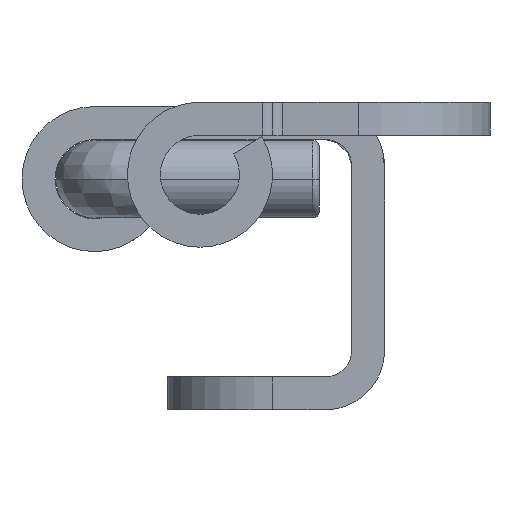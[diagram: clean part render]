
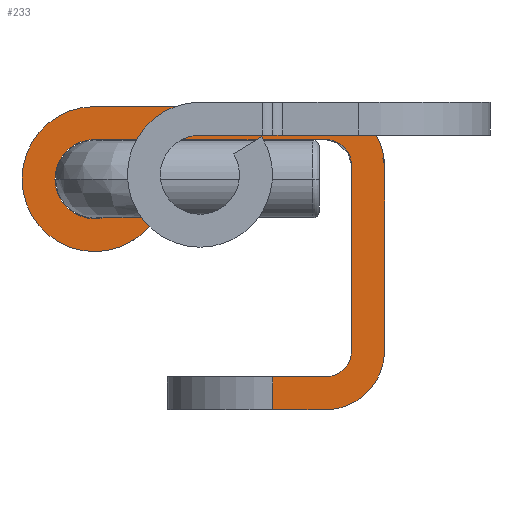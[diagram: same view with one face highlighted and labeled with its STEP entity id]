
A CAD part, front view. The second image highlights one B-rep face of the part: STEP entity #233.
In plain terms, the highlighted planar face has unit normal (0, -1, 0).
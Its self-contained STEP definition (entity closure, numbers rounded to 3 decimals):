
#68=B_SPLINE_CURVE_WITH_KNOTS('',1,(#3798,#3799),.UNSPECIFIED.,.F.,.F.,
(2,2),(0.,14.),.UNSPECIFIED.);
#71=B_SPLINE_CURVE_WITH_KNOTS('',1,(#3812,#3813),.UNSPECIFIED.,.F.,.F.,
(2,2),(0.,4.),.UNSPECIFIED.);
#79=B_SPLINE_CURVE_WITH_KNOTS('',1,(#3828,#3829),.UNSPECIFIED.,.F.,.F.,
(2,2),(0.,4.),.UNSPECIFIED.);
#82=B_SPLINE_CURVE_WITH_KNOTS('',1,(#3842,#3843),.UNSPECIFIED.,.F.,.F.,
(2,2),(0.,14.),.UNSPECIFIED.);
#99=B_SPLINE_CURVE_WITH_KNOTS('',1,(#3894,#3895),.UNSPECIFIED.,.F.,.F.,
(2,2),(0.,17.5),.UNSPECIFIED.);
#100=B_SPLINE_CURVE_WITH_KNOTS('',1,(#3896,#3897),.UNSPECIFIED.,.F.,.F.,
(2,2),(0.,17.5),.UNSPECIFIED.);
#110=B_SPLINE_CURVE_WITH_KNOTS('',1,(#3931,#3932),.UNSPECIFIED.,.F.,.F.,
(2,2),(-2.5,0.),.UNSPECIFIED.);
#126=B_SPLINE_CURVE_WITH_KNOTS('',1,(#4037,#4038),.UNSPECIFIED.,.F.,.F.,
(2,2),(0.,2.5),.UNSPECIFIED.);
#233=ADVANCED_FACE('',(#339),#1821,.T.);
#339=FACE_OUTER_BOUND('',#459,.T.);
#459=EDGE_LOOP('',(#919,#920,#921,#922,#923,#924,#925,#926,#927,#928,#929,
#930,#931,#932,#933,#934));
#919=ORIENTED_EDGE('',*,*,#1302,.F.);
#920=ORIENTED_EDGE('',*,*,#1227,.F.);
#921=ORIENTED_EDGE('',*,*,#1230,.F.);
#922=ORIENTED_EDGE('',*,*,#1233,.F.);
#923=ORIENTED_EDGE('',*,*,#1236,.F.);
#924=ORIENTED_EDGE('',*,*,#1256,.T.);
#925=ORIENTED_EDGE('',*,*,#1293,.T.);
#926=ORIENTED_EDGE('',*,*,#1294,.T.);
#927=ORIENTED_EDGE('',*,*,#1272,.T.);
#928=ORIENTED_EDGE('',*,*,#1289,.T.);
#929=ORIENTED_EDGE('',*,*,#1287,.T.);
#930=ORIENTED_EDGE('',*,*,#1257,.T.);
#931=ORIENTED_EDGE('',*,*,#1258,.T.);
#932=ORIENTED_EDGE('',*,*,#1213,.F.);
#933=ORIENTED_EDGE('',*,*,#1216,.T.);
#934=ORIENTED_EDGE('',*,*,#1219,.F.);
#1213=EDGE_CURVE('',#1706,#1707,#68,.T.);
#1216=EDGE_CURVE('',#1706,#1710,#1392,.T.);
#1219=EDGE_CURVE('',#1712,#1710,#71,.T.);
#1227=EDGE_CURVE('',#1724,#1725,#79,.T.);
#1230=EDGE_CURVE('',#1731,#1724,#1395,.T.);
#1233=EDGE_CURVE('',#1736,#1731,#82,.T.);
#1236=EDGE_CURVE('',#1740,#1736,#1396,.T.);
#1256=EDGE_CURVE('',#1740,#1756,#99,.T.);
#1257=EDGE_CURVE('',#1761,#1762,#100,.T.);
#1258=EDGE_CURVE('',#1762,#1707,#1402,.T.);
#1272=EDGE_CURVE('',#1758,#1759,#110,.T.);
#1287=EDGE_CURVE('',#1760,#1761,#1409,.T.);
#1289=EDGE_CURVE('',#1759,#1760,#1410,.T.);
#1293=EDGE_CURVE('',#1756,#1757,#1413,.T.);
#1294=EDGE_CURVE('',#1757,#1758,#1414,.T.);
#1302=EDGE_CURVE('',#1725,#1712,#126,.T.);
#1392=TRIMMED_CURVE($,#1504,(#3805),(#3806),.T.,.CARTESIAN.);
#1395=TRIMMED_CURVE($,#1507,(#3836),(#3837),.T.,.CARTESIAN.);
#1396=TRIMMED_CURVE($,#1508,(#3849),(#3850),.T.,.CARTESIAN.);
#1402=TRIMMED_CURVE($,#1514,(#3899),(#3900),.T.,.CARTESIAN.);
#1409=TRIMMED_CURVE($,#1521,(#3996),(#3997),.T.,.CARTESIAN.);
#1410=TRIMMED_CURVE($,#1522,(#4001),(#4002),.T.,.CARTESIAN.);
#1413=TRIMMED_CURVE($,#1525,(#4012),(#4013),.T.,.CARTESIAN.);
#1414=TRIMMED_CURVE($,#1526,(#4015),(#4016),.T.,.CARTESIAN.);
#1504=CIRCLE('',#2132,2.);
#1507=CIRCLE('',#2135,4.5);
#1508=CIRCLE('',#2136,4.5);
#1514=CIRCLE('',#2142,2.);
#1521=CIRCLE('',#2149,3.);
#1522=CIRCLE('',#2150,3.);
#1525=CIRCLE('',#2153,5.5);
#1526=CIRCLE('',#2154,5.5);
#1706=VERTEX_POINT('',#3726);
#1707=VERTEX_POINT('',#3727);
#1710=VERTEX_POINT('',#3730);
#1712=VERTEX_POINT('',#3732);
#1724=VERTEX_POINT('',#3744);
#1725=VERTEX_POINT('',#3745);
#1731=VERTEX_POINT('',#3751);
#1736=VERTEX_POINT('',#3756);
#1740=VERTEX_POINT('',#3760);
#1756=VERTEX_POINT('',#3776);
#1757=VERTEX_POINT('',#3777);
#1758=VERTEX_POINT('',#3778);
#1759=VERTEX_POINT('',#3779);
#1760=VERTEX_POINT('',#3780);
#1761=VERTEX_POINT('',#3781);
#1762=VERTEX_POINT('',#3782);
#1821=PLANE('',#2115);
#2115=AXIS2_PLACEMENT_3D('',#3506,#2396,$);
#2132=AXIS2_PLACEMENT_3D($,#3804,#2413,#2414);
#2135=AXIS2_PLACEMENT_3D($,#3835,#2419,#2420);
#2136=AXIS2_PLACEMENT_3D($,#3848,#2421,#2422);
#2142=AXIS2_PLACEMENT_3D($,#3898,#2433,#2434);
#2149=AXIS2_PLACEMENT_3D($,#3995,#2447,#2448);
#2150=AXIS2_PLACEMENT_3D($,#4000,#2449,#2450);
#2153=AXIS2_PLACEMENT_3D($,#4011,#2455,#2456);
#2154=AXIS2_PLACEMENT_3D($,#4014,#2457,#2458);
#2396=DIRECTION('',(0.,-1.,0.));
#2413=DIRECTION('',(0.,1.,0.));
#2414=DIRECTION('',(1.,0.,0.));
#2419=DIRECTION('',(0.,1.,0.));
#2420=DIRECTION('',(1.,0.,0.));
#2421=DIRECTION('',(0.,1.,0.));
#2422=DIRECTION('',(0.,0.,1.));
#2433=DIRECTION('',(0.,1.,0.));
#2434=DIRECTION('',(0.,0.,1.));
#2447=DIRECTION('',(0.,1.,0.));
#2448=DIRECTION('',(0.,0.,-1.));
#2449=DIRECTION('',(0.,1.,0.));
#2450=DIRECTION('',(0.841,0.,0.541));
#2455=DIRECTION('',(0.,-1.,0.));
#2456=DIRECTION('',(0.,0.,1.));
#2457=DIRECTION('',(0.,-1.,0.));
#2458=DIRECTION('',(0.,0.,-1.));
#3506=CARTESIAN_POINT('',(-107.344,-0.854,133.496));
#3726=CARTESIAN_POINT('',(-79.582,-0.854,112.684));
#3727=CARTESIAN_POINT('',(-79.582,-0.854,126.684));
#3730=CARTESIAN_POINT('',(-81.582,-0.854,110.684));
#3732=CARTESIAN_POINT('',(-85.582,-0.854,110.684));
#3744=CARTESIAN_POINT('',(-81.582,-0.854,108.184));
#3745=CARTESIAN_POINT('',(-85.582,-0.854,108.184));
#3751=CARTESIAN_POINT('',(-77.082,-0.854,112.684));
#3756=CARTESIAN_POINT('',(-77.082,-0.854,126.684));
#3760=CARTESIAN_POINT('',(-81.582,-0.854,131.184));
#3776=CARTESIAN_POINT('',(-99.082,-0.854,131.184));
#3777=CARTESIAN_POINT('',(-99.082,-0.854,120.184));
#3778=CARTESIAN_POINT('',(-94.455,-0.854,128.658));
#3779=CARTESIAN_POINT('',(-96.558,-0.854,127.306));
#3780=CARTESIAN_POINT('',(-99.082,-0.854,122.684));
#3781=CARTESIAN_POINT('',(-99.082,-0.854,128.684));
#3782=CARTESIAN_POINT('',(-81.582,-0.854,128.684));
#3798=CARTESIAN_POINT('',(-79.582,-0.854,112.684));
#3799=CARTESIAN_POINT('',(-79.582,-0.854,126.684));
#3804=CARTESIAN_POINT('',(-81.582,-0.854,112.684));
#3805=CARTESIAN_POINT('',(-79.582,-0.854,112.684));
#3806=CARTESIAN_POINT('',(-81.582,-0.854,110.684));
#3812=CARTESIAN_POINT('',(-85.582,-0.854,110.684));
#3813=CARTESIAN_POINT('',(-81.582,-0.854,110.684));
#3828=CARTESIAN_POINT('',(-81.582,-0.854,108.184));
#3829=CARTESIAN_POINT('',(-85.582,-0.854,108.184));
#3835=CARTESIAN_POINT('',(-81.582,-0.854,112.684));
#3836=CARTESIAN_POINT('',(-77.082,-0.854,112.684));
#3837=CARTESIAN_POINT('',(-81.582,-0.854,108.184));
#3842=CARTESIAN_POINT('',(-77.082,-0.854,126.684));
#3843=CARTESIAN_POINT('',(-77.082,-0.854,112.684));
#3848=CARTESIAN_POINT('',(-81.582,-0.854,126.684));
#3849=CARTESIAN_POINT('',(-81.582,-0.854,131.184));
#3850=CARTESIAN_POINT('',(-77.082,-0.854,126.684));
#3894=CARTESIAN_POINT('',(-81.582,-0.854,131.184));
#3895=CARTESIAN_POINT('',(-99.082,-0.854,131.184));
#3896=CARTESIAN_POINT('',(-99.082,-0.854,128.684));
#3897=CARTESIAN_POINT('',(-81.582,-0.854,128.684));
#3898=CARTESIAN_POINT('',(-81.582,-0.854,126.684));
#3899=CARTESIAN_POINT('',(-81.582,-0.854,128.684));
#3900=CARTESIAN_POINT('',(-79.582,-0.854,126.684));
#3931=CARTESIAN_POINT('',(-94.455,-0.854,128.658));
#3932=CARTESIAN_POINT('',(-96.558,-0.854,127.306));
#3995=CARTESIAN_POINT('',(-99.082,-0.854,125.684));
#3996=CARTESIAN_POINT('',(-99.082,-0.854,122.684));
#3997=CARTESIAN_POINT('',(-99.082,-0.854,128.684));
#4000=CARTESIAN_POINT('',(-99.082,-0.854,125.684));
#4001=CARTESIAN_POINT('',(-96.558,-0.854,127.306));
#4002=CARTESIAN_POINT('',(-99.082,-0.854,122.684));
#4011=CARTESIAN_POINT('',(-99.082,-0.854,125.684));
#4012=CARTESIAN_POINT('',(-99.082,-0.854,131.184));
#4013=CARTESIAN_POINT('',(-99.082,-0.854,120.184));
#4014=CARTESIAN_POINT('',(-99.082,-0.854,125.684));
#4015=CARTESIAN_POINT('',(-99.082,-0.854,120.184));
#4016=CARTESIAN_POINT('',(-94.455,-0.854,128.658));
#4037=CARTESIAN_POINT('',(-85.582,-0.854,108.184));
#4038=CARTESIAN_POINT('',(-85.582,-0.854,110.684));
